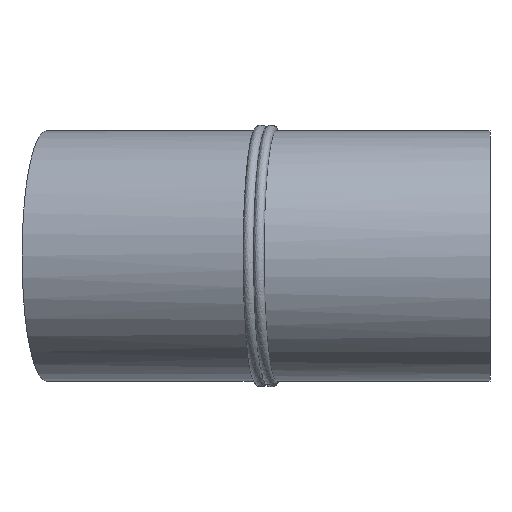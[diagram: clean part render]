
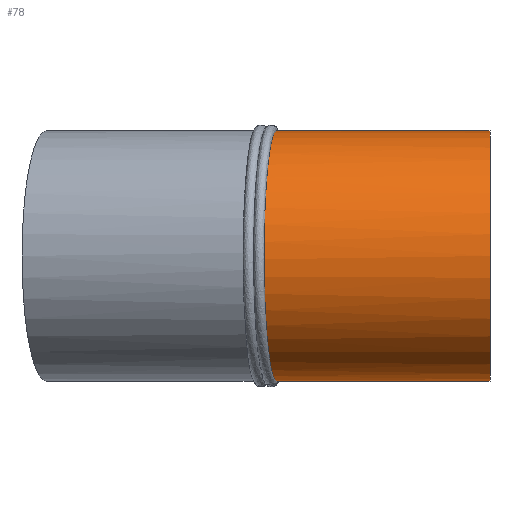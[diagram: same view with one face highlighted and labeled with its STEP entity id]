
A CAD part, left-side view. The second image highlights one B-rep face of the part: STEP entity #78.
In plain terms, the highlighted cylindrical face has radius 177.5 mm (diameter 355 mm), a full revolution.
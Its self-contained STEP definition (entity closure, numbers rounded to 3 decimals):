
#32=B_SPLINE_CURVE_WITH_KNOTS('',3,(#131,#132,#133,#134,#135,#136,#137,
#138,#139,#140,#141,#142,#143,#144,#145,#146,#147,#148,#149,#150,#151,#152,
#153,#154,#155,#156,#157,#158,#159,#160,#161,#162,#163,#164,#165,#166,#167,
#168,#169,#170,#171,#172,#173,#174,#175,#176,#177,#178,#179,#180,#181,#182,
#183,#184,#185,#186,#187,#188,#189,#190,#191,#192,#193,#194,#195,#196,#197,
#198,#199,#200,#201,#202,#203,#204,#205,#206,#207,#208,#209,#210,#211,#212,
#213,#214,#215,#216,#217),.UNSPECIFIED.,.T.,.F.,(1,1,1,1,1,1,1,1,1,1,1,
1,1,1,1,1,1,1,1,1,1,1,1,1,1,1,1,1,1,1,1,1,1,1,1,1,1,1,1,1,1,1,1,1,1,1,1,
1,1,1,1,1,1,1,1,1,1,1,1,1,1,1,1,1,1,1,1,1,1,1,1,1,1,1,1,1,1,1,1,1,1,1,1,
1,1,1,1,1,1,1,1),(-0.053,-0.035,-0.018,
0.,0.018,0.035,0.053,
0.07,0.088,0.096,0.105,
0.114,0.123,0.132,0.14,
0.158,0.175,0.193,0.202,
0.21,0.219,0.228,0.245,
0.263,0.281,0.298,0.307,
0.316,0.333,0.351,0.368,0.377,
0.386,0.395,0.403,0.421,
0.438,0.456,0.465,0.473,
0.491,0.508,0.517,0.526,0.544,
0.561,0.579,0.587,0.596,
0.605,0.614,0.631,0.649,
0.666,0.675,0.684,0.701,
0.719,0.736,0.754,0.771,
0.78,0.789,0.798,0.807,
0.824,0.833,0.842,0.859,
0.877,0.885,0.894,0.912,
0.929,0.938,0.947,0.964,
0.982,0.999,1.008,1.017,1.026,
1.034,1.052,1.07,1.087,1.105,
1.122,1.14,1.157,1.175),
 .UNSPECIFIED.);
#34=ORIENTED_EDGE('',*,*,#44,.T.);
#35=ORIENTED_EDGE('',*,*,#45,.F.);
#44=EDGE_CURVE('',#49,#49,#54,.T.);
#45=EDGE_CURVE('',#50,#50,#32,.T.);
#49=VERTEX_POINT('',#130);
#50=VERTEX_POINT('',#218);
#54=CIRCLE('',#99,177.5);
#56=EDGE_LOOP('',(#34));
#57=EDGE_LOOP('',(#35));
#66=FACE_BOUND('',#56,.T.);
#67=FACE_BOUND('',#57,.T.);
#76=CYLINDRICAL_SURFACE('',#98,177.5);
#78=ADVANCED_FACE('',(#66,#67),#76,.T.);
#98=AXIS2_PLACEMENT_3D('',#128,#109,#110);
#99=AXIS2_PLACEMENT_3D('',#129,#111,#112);
#109=DIRECTION('',(0.,-1.,0.));
#110=DIRECTION('',(0.,0.,-1.));
#111=DIRECTION('',(0.,1.,0.));
#112=DIRECTION('',(1.,0.,0.));
#128=CARTESIAN_POINT('',(0.,650.,0.));
#129=CARTESIAN_POINT('',(0.,0.,0.));
#130=CARTESIAN_POINT('',(177.5,0.,0.));
#131=CARTESIAN_POINT('',(17.374,300.757,-176.929));
#132=CARTESIAN_POINT('',(0.025,302.479,-177.787));
#133=CARTESIAN_POINT('',(-17.473,304.217,-176.925));
#134=CARTESIAN_POINT('',(-34.683,305.931,-174.37));
#135=CARTESIAN_POINT('',(-51.659,307.623,-170.114));
#136=CARTESIAN_POINT('',(-67.918,309.247,-164.293));
#137=CARTESIAN_POINT('',(-80.91,310.546,-158.17));
#138=CARTESIAN_POINT('',(-90.959,311.552,-152.505));
#139=CARTESIAN_POINT('',(-98.333,312.291,-147.859));
#140=CARTESIAN_POINT('',(-105.493,313.008,-142.839));
#141=CARTESIAN_POINT('',(-112.374,313.698,-137.491));
#142=CARTESIAN_POINT('',(-118.992,314.363,-131.806));
#143=CARTESIAN_POINT('',(-127.462,315.213,-123.771));
#144=CARTESIAN_POINT('',(-137.242,316.196,-113.016));
#145=CARTESIAN_POINT('',(-147.709,317.25,-98.946));
#146=CARTESIAN_POINT('',(-155.207,318.004,-86.467));
#147=CARTESIAN_POINT('',(-160.472,318.535,-76.029));
#148=CARTESIAN_POINT('',(-164.017,318.893,-68.044));
#149=CARTESIAN_POINT('',(-167.168,319.21,-59.89));
#150=CARTESIAN_POINT('',(-170.84,319.58,-48.781));
#151=CARTESIAN_POINT('',(-174.379,319.938,-34.652));
#152=CARTESIAN_POINT('',(-176.946,320.196,-17.264));
#153=CARTESIAN_POINT('',(-177.78,320.281,0.043));
#154=CARTESIAN_POINT('',(-177.076,320.21,14.455));
#155=CARTESIAN_POINT('',(-175.664,320.067,25.96));
#156=CARTESIAN_POINT('',(-173.669,319.866,37.484));
#157=CARTESIAN_POINT('',(-170.128,319.508,51.623));
#158=CARTESIAN_POINT('',(-164.206,318.912,68.152));
#159=CARTESIAN_POINT('',(-157.972,318.283,81.307));
#160=CARTESIAN_POINT('',(-152.198,317.702,91.474));
#161=CARTESIAN_POINT('',(-147.515,317.23,98.848));
#162=CARTESIAN_POINT('',(-142.479,316.723,105.978));
#163=CARTESIAN_POINT('',(-135.28,315.999,115.174));
#164=CARTESIAN_POINT('',(-125.492,315.015,125.936));
#165=CARTESIAN_POINT('',(-112.488,313.709,137.675));
#166=CARTESIAN_POINT('',(-100.805,312.538,146.301));
#167=CARTESIAN_POINT('',(-90.934,311.549,152.521));
#168=CARTESIAN_POINT('',(-80.848,310.54,158.203));
#169=CARTESIAN_POINT('',(-67.837,309.239,164.327));
#170=CARTESIAN_POINT('',(-54.299,307.887,169.163));
#171=CARTESIAN_POINT('',(-43.147,306.775,172.25));
#172=CARTESIAN_POINT('',(-31.775,305.641,174.802));
#173=CARTESIAN_POINT('',(-17.436,304.214,176.928));
#174=CARTESIAN_POINT('',(0.025,302.479,177.785));
#175=CARTESIAN_POINT('',(14.514,301.041,177.073));
#176=CARTESIAN_POINT('',(26.072,299.896,175.647));
#177=CARTESIAN_POINT('',(34.646,299.047,174.158));
#178=CARTESIAN_POINT('',(43.141,298.206,172.251));
#179=CARTESIAN_POINT('',(54.371,297.096,169.143));
#180=CARTESIAN_POINT('',(68.03,295.747,164.255));
#181=CARTESIAN_POINT('',(83.85,294.187,156.771));
#182=CARTESIAN_POINT('',(96.301,292.961,149.304));
#183=CARTESIAN_POINT('',(105.839,292.023,142.582));
#184=CARTESIAN_POINT('',(114.956,291.127,135.461));
#185=CARTESIAN_POINT('',(125.623,290.079,125.793));
#186=CARTESIAN_POINT('',(137.243,288.939,113.011));
#187=CARTESIAN_POINT('',(147.71,287.914,98.945));
#188=CARTESIAN_POINT('',(156.708,287.033,83.97));
#189=CARTESIAN_POINT('',(162.973,286.42,70.75));
#190=CARTESIAN_POINT('',(167.169,286.01,59.886));
#191=CARTESIAN_POINT('',(169.92,285.741,51.565));
#192=CARTESIAN_POINT('',(172.255,285.512,43.125));
#193=CARTESIAN_POINT('',(174.795,285.264,31.806));
#194=CARTESIAN_POINT('',(176.496,285.098,20.353));
#195=CARTESIAN_POINT('',(177.354,285.014,8.783));
#196=CARTESIAN_POINT('',(177.645,284.986,-2.898));
#197=CARTESIAN_POINT('',(176.927,285.056,-17.486));
#198=CARTESIAN_POINT('',(174.769,285.267,-31.963));
#199=CARTESIAN_POINT('',(172.202,285.518,-43.338));
#200=CARTESIAN_POINT('',(169.066,285.824,-54.616));
#201=CARTESIAN_POINT('',(164.148,286.305,-68.278));
#202=CARTESIAN_POINT('',(157.95,286.911,-81.342));
#203=CARTESIAN_POINT('',(152.223,287.472,-91.433));
#204=CARTESIAN_POINT('',(145.959,288.085,-101.3));
#205=CARTESIAN_POINT('',(137.277,288.936,-112.975));
#206=CARTESIAN_POINT('',(125.482,290.093,-125.946));
#207=CARTESIAN_POINT('',(114.696,291.152,-135.685));
#208=CARTESIAN_POINT('',(105.481,292.058,-142.848));
#209=CARTESIAN_POINT('',(98.341,292.761,-147.853));
#210=CARTESIAN_POINT('',(90.97,293.486,-152.5));
#211=CARTESIAN_POINT('',(80.811,294.487,-158.225));
#212=CARTESIAN_POINT('',(67.675,295.782,-164.402));
#213=CARTESIAN_POINT('',(51.178,297.411,-170.259));
#214=CARTESIAN_POINT('',(34.41,299.07,-174.415));
#215=CARTESIAN_POINT('',(17.374,300.757,-176.929));
#216=CARTESIAN_POINT('',(0.025,302.479,-177.787));
#217=CARTESIAN_POINT('',(-17.473,304.217,-176.925));
#218=CARTESIAN_POINT('',(0.,302.482,-177.5));
